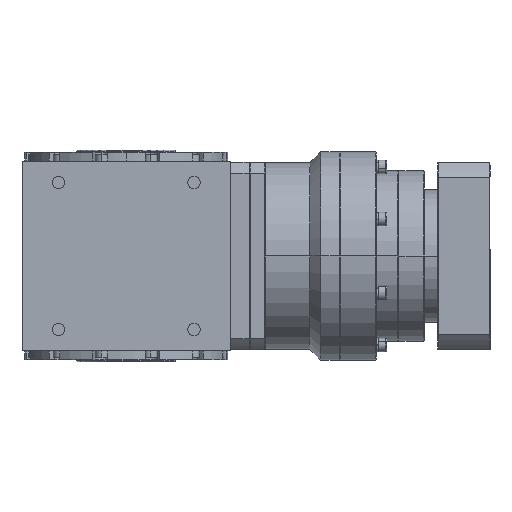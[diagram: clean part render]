
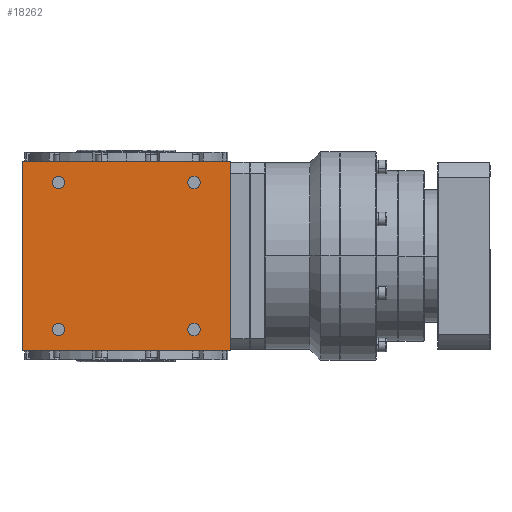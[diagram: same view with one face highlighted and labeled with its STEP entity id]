
A CAD part, left-side view. The second image highlights one B-rep face of the part: STEP entity #18262.
In plain terms, the highlighted planar face has unit normal (-1, 0, 0).
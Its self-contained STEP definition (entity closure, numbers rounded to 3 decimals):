
#165 = AXIS2_PLACEMENT_3D ( 'NONE', #17196, #10509, #41723 ) ;
#299 = CIRCLE ( 'NONE', #30914, 6. ) ;
#351 = VERTEX_POINT ( 'NONE', #37459 ) ;
#385 = ORIENTED_EDGE ( 'NONE', *, *, #4572, .T. ) ;
#469 = FACE_BOUND ( 'NONE', #15639, .T. ) ;
#687 = ORIENTED_EDGE ( 'NONE', *, *, #42840, .F. ) ;
#1134 = AXIS2_PLACEMENT_3D ( 'NONE', #37957, #7391, #34596 ) ;
#1731 = EDGE_CURVE ( 'NONE', #35543, #25009, #299, .T. ) ;
#2317 = DIRECTION ( 'NONE',  ( 1., 0., 0. ) ) ;
#2875 = ORIENTED_EDGE ( 'NONE', *, *, #42737, .T. ) ;
#3011 = DIRECTION ( 'NONE',  ( 0., 0., 1. ) ) ;
#3021 = EDGE_CURVE ( 'NONE', #14919, #28718, #3124, .T. ) ;
#3124 = CIRCLE ( 'NONE', #20193, 6. ) ;
#3599 = FACE_OUTER_BOUND ( 'NONE', #7122, .T. ) ;
#3788 = VERTEX_POINT ( 'NONE', #10227 ) ;
#3848 = ORIENTED_EDGE ( 'NONE', *, *, #15398, .T. ) ;
#3987 = DIRECTION ( 'NONE',  ( 0., -1., 0. ) ) ;
#4572 = EDGE_CURVE ( 'NONE', #351, #11314, #26030, .T. ) ;
#4887 = AXIS2_PLACEMENT_3D ( 'NONE', #42918, #18821, #19261 ) ;
#5104 = CARTESIAN_POINT ( 'NONE',  ( -100., -65., -70.5 ) ) ;
#5429 = DIRECTION ( 'NONE',  ( 0., -1., 0. ) ) ;
#6652 = VERTEX_POINT ( 'NONE', #32990 ) ;
#7106 = EDGE_CURVE ( 'NONE', #43443, #7259, #24098, .T. ) ;
#7122 = EDGE_LOOP ( 'NONE', ( #26262, #22525, #687, #37837 ) ) ;
#7171 = FACE_BOUND ( 'NONE', #36257, .T. ) ;
#7259 = VERTEX_POINT ( 'NONE', #41103 ) ;
#7338 = CARTESIAN_POINT ( 'NONE',  ( -100., 0., 91. ) ) ;
#7391 = DIRECTION ( 'NONE',  ( 1., 0., 0. ) ) ;
#8743 = EDGE_CURVE ( 'NONE', #3788, #30045, #18403, .T. ) ;
#8775 = DIRECTION ( 'NONE',  ( 1., 0., 0. ) ) ;
#9414 = CARTESIAN_POINT ( 'NONE',  ( -100., -100., -91. ) ) ;
#10211 = CARTESIAN_POINT ( 'NONE',  ( -100., 71., -70.5 ) ) ;
#10227 = CARTESIAN_POINT ( 'NONE',  ( -100., -100., -91. ) ) ;
#10503 = CIRCLE ( 'NONE', #31882, 6. ) ;
#10509 = DIRECTION ( 'NONE',  ( -1., 0., 0. ) ) ;
#11314 = VERTEX_POINT ( 'NONE', #10211 ) ;
#12537 = CARTESIAN_POINT ( 'NONE',  ( -100., -65., 70.5 ) ) ;
#14094 = VECTOR ( 'NONE', #3011, 1000. ) ;
#14919 = VERTEX_POINT ( 'NONE', #25550 ) ;
#15398 = EDGE_CURVE ( 'NONE', #7259, #43443, #18383, .T. ) ;
#15639 = EDGE_LOOP ( 'NONE', ( #40794, #38060 ) ) ;
#17196 = CARTESIAN_POINT ( 'NONE',  ( -100., 100., -91. ) ) ;
#17442 = EDGE_CURVE ( 'NONE', #43926, #3788, #23134, .T. ) ;
#18262 = ADVANCED_FACE ( 'NONE', ( #28118, #7171, #469, #20533, #3599 ), #38402, .T. ) ;
#18383 = CIRCLE ( 'NONE', #24083, 6. ) ;
#18403 = LINE ( 'NONE', #9414, #28273 ) ;
#18795 = CARTESIAN_POINT ( 'NONE',  ( -100., -65., -70.5 ) ) ;
#18821 = DIRECTION ( 'NONE',  ( 1., 0., 0. ) ) ;
#18860 = DIRECTION ( 'NONE',  ( 1., 0., 0. ) ) ;
#19081 = DIRECTION ( 'NONE',  ( 0., -1., 0. ) ) ;
#19261 = DIRECTION ( 'NONE',  ( 0., -1., 0. ) ) ;
#19726 = CARTESIAN_POINT ( 'NONE',  ( -100., -71., -70.5 ) ) ;
#20193 = AXIS2_PLACEMENT_3D ( 'NONE', #37551, #27047, #33750 ) ;
#20315 = ORIENTED_EDGE ( 'NONE', *, *, #7106, .T. ) ;
#20499 = AXIS2_PLACEMENT_3D ( 'NONE', #43648, #32958, #26673 ) ;
#20533 = FACE_BOUND ( 'NONE', #30854, .T. ) ;
#22222 = CARTESIAN_POINT ( 'NONE',  ( -100., 59., 70.5 ) ) ;
#22525 = ORIENTED_EDGE ( 'NONE', *, *, #32747, .F. ) ;
#23134 = LINE ( 'NONE', #36755, #31678 ) ;
#23902 = CARTESIAN_POINT ( 'NONE',  ( -100., -59., 70.5 ) ) ;
#24083 = AXIS2_PLACEMENT_3D ( 'NONE', #12537, #8775, #35970 ) ;
#24098 = CIRCLE ( 'NONE', #4887, 6. ) ;
#25009 = VERTEX_POINT ( 'NONE', #19726 ) ;
#25034 = CIRCLE ( 'NONE', #43529, 6. ) ;
#25122 = CARTESIAN_POINT ( 'NONE',  ( -100., 65., -70.5 ) ) ;
#25254 = EDGE_CURVE ( 'NONE', #25009, #35543, #25034, .T. ) ;
#25550 = CARTESIAN_POINT ( 'NONE',  ( -100., 71., 70.5 ) ) ;
#25603 = DIRECTION ( 'NONE',  ( 1., 0., 0. ) ) ;
#26030 = CIRCLE ( 'NONE', #1134, 6. ) ;
#26093 = EDGE_LOOP ( 'NONE', ( #35612, #28550 ) ) ;
#26262 = ORIENTED_EDGE ( 'NONE', *, *, #8743, .T. ) ;
#26346 = DIRECTION ( 'NONE',  ( 0., 0., 1. ) ) ;
#26673 = DIRECTION ( 'NONE',  ( 0., -1., 0. ) ) ;
#27047 = DIRECTION ( 'NONE',  ( 1., 0., 0. ) ) ;
#28118 = FACE_BOUND ( 'NONE', #26093, .T. ) ;
#28273 = VECTOR ( 'NONE', #26346, 1000. ) ;
#28550 = ORIENTED_EDGE ( 'NONE', *, *, #1731, .T. ) ;
#28718 = VERTEX_POINT ( 'NONE', #22222 ) ;
#28978 = VECTOR ( 'NONE', #3987, 1000. ) ;
#30045 = VERTEX_POINT ( 'NONE', #31846 ) ;
#30217 = CARTESIAN_POINT ( 'NONE',  ( -100., -59., -70.5 ) ) ;
#30462 = CIRCLE ( 'NONE', #20499, 6. ) ;
#30854 = EDGE_LOOP ( 'NONE', ( #3848, #20315 ) ) ;
#30914 = AXIS2_PLACEMENT_3D ( 'NONE', #5104, #25603, #36088 ) ;
#31678 = VECTOR ( 'NONE', #44112, 1000. ) ;
#31846 = CARTESIAN_POINT ( 'NONE',  ( -100., -100., 91. ) ) ;
#31882 = AXIS2_PLACEMENT_3D ( 'NONE', #25122, #18860, #19081 ) ;
#32747 = EDGE_CURVE ( 'NONE', #6652, #30045, #38126, .T. ) ;
#32958 = DIRECTION ( 'NONE',  ( 1., 0., 0. ) ) ;
#32990 = CARTESIAN_POINT ( 'NONE',  ( -100., 100., 91. ) ) ;
#33570 = CARTESIAN_POINT ( 'NONE',  ( -100., 100., -91. ) ) ;
#33750 = DIRECTION ( 'NONE',  ( 0., -1., 0. ) ) ;
#34596 = DIRECTION ( 'NONE',  ( 0., -1., 0. ) ) ;
#35543 = VERTEX_POINT ( 'NONE', #30217 ) ;
#35612 = ORIENTED_EDGE ( 'NONE', *, *, #25254, .T. ) ;
#35970 = DIRECTION ( 'NONE',  ( 0., -1., 0. ) ) ;
#36088 = DIRECTION ( 'NONE',  ( 0., -1., 0. ) ) ;
#36257 = EDGE_LOOP ( 'NONE', ( #385, #2875 ) ) ;
#36755 = CARTESIAN_POINT ( 'NONE',  ( -100., 100., -91. ) ) ;
#37459 = CARTESIAN_POINT ( 'NONE',  ( -100., 59., -70.5 ) ) ;
#37551 = CARTESIAN_POINT ( 'NONE',  ( -100., 65., 70.5 ) ) ;
#37837 = ORIENTED_EDGE ( 'NONE', *, *, #17442, .T. ) ;
#37957 = CARTESIAN_POINT ( 'NONE',  ( -100., 65., -70.5 ) ) ;
#38060 = ORIENTED_EDGE ( 'NONE', *, *, #3021, .T. ) ;
#38126 = LINE ( 'NONE', #7338, #28978 ) ;
#38402 = PLANE ( 'NONE',  #165 ) ;
#38960 = CARTESIAN_POINT ( 'NONE',  ( -100., 100., -91. ) ) ;
#40254 = LINE ( 'NONE', #33570, #14094 ) ;
#40794 = ORIENTED_EDGE ( 'NONE', *, *, #41327, .T. ) ;
#41103 = CARTESIAN_POINT ( 'NONE',  ( -100., -71., 70.5 ) ) ;
#41327 = EDGE_CURVE ( 'NONE', #28718, #14919, #30462, .T. ) ;
#41723 = DIRECTION ( 'NONE',  ( 0., -1., 0. ) ) ;
#42737 = EDGE_CURVE ( 'NONE', #11314, #351, #10503, .T. ) ;
#42840 = EDGE_CURVE ( 'NONE', #43926, #6652, #40254, .T. ) ;
#42918 = CARTESIAN_POINT ( 'NONE',  ( -100., -65., 70.5 ) ) ;
#43443 = VERTEX_POINT ( 'NONE', #23902 ) ;
#43529 = AXIS2_PLACEMENT_3D ( 'NONE', #18795, #2317, #5429 ) ;
#43648 = CARTESIAN_POINT ( 'NONE',  ( -100., 65., 70.5 ) ) ;
#43926 = VERTEX_POINT ( 'NONE', #38960 ) ;
#44112 = DIRECTION ( 'NONE',  ( 0., -1., 0. ) ) ;
